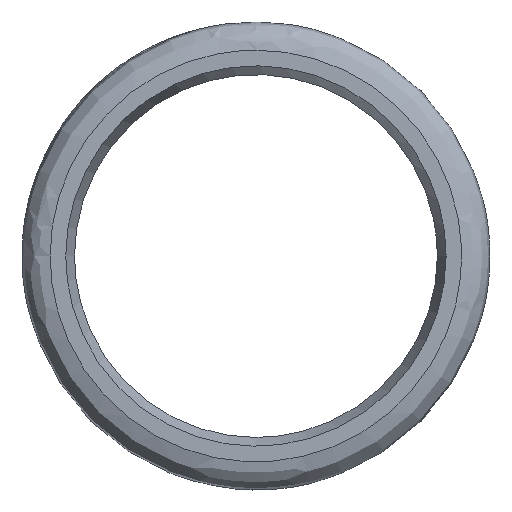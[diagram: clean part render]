
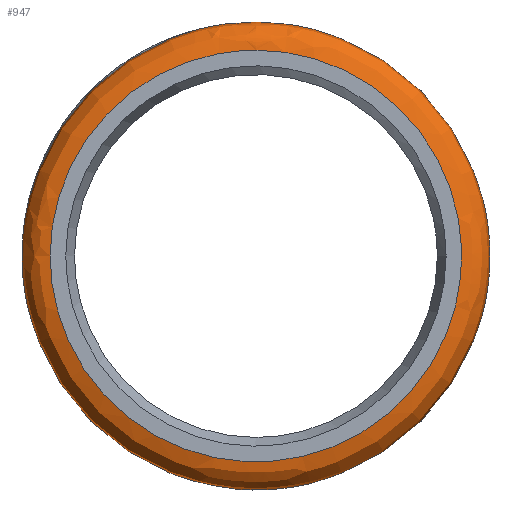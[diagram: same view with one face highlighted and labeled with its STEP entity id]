
A CAD part, left-side view. The second image highlights one B-rep face of the part: STEP entity #947.
In plain terms, the highlighted free-form (B-spline) face has degree [2, 2] with [5, 9] control points.
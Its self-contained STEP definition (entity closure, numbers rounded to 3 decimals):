
#901 = EDGE_CURVE('',#902,#904,#906,.T.);
#902 = VERTEX_POINT('',#903);
#903 = CARTESIAN_POINT('',(0.,48.1,0.));
#904 = VERTEX_POINT('',#905);
#905 = CARTESIAN_POINT('',(0.,0.,48.1));
#906 = ( BOUNDED_CURVE() B_SPLINE_CURVE(2,(#907,#908,#909),
.UNSPECIFIED.,.F.,.F.) B_SPLINE_CURVE_WITH_KNOTS((3,3),(0.,
1.571),.PIECEWISE_BEZIER_KNOTS.) CURVE() 
GEOMETRIC_REPRESENTATION_ITEM() RATIONAL_B_SPLINE_CURVE((1.,
0.707,1.)) REPRESENTATION_ITEM('') );
#907 = CARTESIAN_POINT('',(0.,48.1,0.));
#908 = CARTESIAN_POINT('',(0.,48.1,48.1));
#909 = CARTESIAN_POINT('',(0.,0.,48.1));
#911 = EDGE_CURVE('',#904,#902,#912,.T.);
#912 = ( BOUNDED_CURVE() B_SPLINE_CURVE(2,(#913,#914,#915,#916,#917,#918
,#919),.UNSPECIFIED.,.F.,.F.) B_SPLINE_CURVE_WITH_KNOTS((3,2,2,3),(
    1.571,3.142,4.712,6.283),
.UNSPECIFIED.) CURVE() GEOMETRIC_REPRESENTATION_ITEM() 
RATIONAL_B_SPLINE_CURVE((1.,0.707,1.,0.707,1.,
0.707,1.)) REPRESENTATION_ITEM('') );
#913 = CARTESIAN_POINT('',(0.,0.,48.1));
#914 = CARTESIAN_POINT('',(0.,-48.1,48.1));
#915 = CARTESIAN_POINT('',(0.,-48.1,0.));
#916 = CARTESIAN_POINT('',(0.,-48.1,-48.1));
#917 = CARTESIAN_POINT('',(0.,0.,-48.1));
#918 = CARTESIAN_POINT('',(0.,48.1,-48.1));
#919 = CARTESIAN_POINT('',(0.,48.1,0.));
#947 = ADVANCED_FACE('',(#948),#987,.T.);
#948 = FACE_BOUND('',#949,.T.);
#949 = EDGE_LOOP('',(#950,#960,#970,#976,#984,#985,#986));
#950 = ORIENTED_EDGE('',*,*,#951,.F.);
#951 = EDGE_CURVE('',#952,#954,#956,.T.);
#952 = VERTEX_POINT('',#953);
#953 = CARTESIAN_POINT('',(11.267,52.767,0.));
#954 = VERTEX_POINT('',#955);
#955 = CARTESIAN_POINT('',(11.267,0.,52.767));
#956 = ( BOUNDED_CURVE() B_SPLINE_CURVE(2,(#957,#958,#959),
.UNSPECIFIED.,.F.,.F.) B_SPLINE_CURVE_WITH_KNOTS((3,3),(0.,
1.571),.PIECEWISE_BEZIER_KNOTS.) CURVE() 
GEOMETRIC_REPRESENTATION_ITEM() RATIONAL_B_SPLINE_CURVE((1.,
0.707,1.)) REPRESENTATION_ITEM('') );
#957 = CARTESIAN_POINT('',(11.267,52.767,0.));
#958 = CARTESIAN_POINT('',(11.267,52.767,
    52.767));
#959 = CARTESIAN_POINT('',(11.267,0.,
    52.767));
#960 = ORIENTED_EDGE('',*,*,#961,.F.);
#961 = EDGE_CURVE('',#962,#952,#964,.T.);
#962 = VERTEX_POINT('',#963);
#963 = CARTESIAN_POINT('',(11.267,-52.767,0.));
#964 = ( BOUNDED_CURVE() B_SPLINE_CURVE(2,(#965,#966,#967,#968,#969),
.UNSPECIFIED.,.F.,.F.) B_SPLINE_CURVE_WITH_KNOTS((3,2,3),(3.142,
4.712,6.283),.PIECEWISE_BEZIER_KNOTS.) CURVE() 
GEOMETRIC_REPRESENTATION_ITEM() RATIONAL_B_SPLINE_CURVE((1.,
0.707,1.,0.707,1.)) REPRESENTATION_ITEM('') );
#965 = CARTESIAN_POINT('',(11.267,-52.767,
    0.));
#966 = CARTESIAN_POINT('',(11.267,-52.767,
    -52.767));
#967 = CARTESIAN_POINT('',(11.267,0.,
    -52.767));
#968 = CARTESIAN_POINT('',(11.267,52.767,
    -52.767));
#969 = CARTESIAN_POINT('',(11.267,52.767,
    0.));
#970 = ORIENTED_EDGE('',*,*,#971,.F.);
#971 = EDGE_CURVE('',#954,#962,#972,.T.);
#972 = ( BOUNDED_CURVE() B_SPLINE_CURVE(2,(#973,#974,#975),
.UNSPECIFIED.,.F.,.F.) B_SPLINE_CURVE_WITH_KNOTS((3,3),(1.571,
3.142),.PIECEWISE_BEZIER_KNOTS.) CURVE() 
GEOMETRIC_REPRESENTATION_ITEM() RATIONAL_B_SPLINE_CURVE((1.,
0.707,1.)) REPRESENTATION_ITEM('') );
#973 = CARTESIAN_POINT('',(11.267,0.,
    52.767));
#974 = CARTESIAN_POINT('',(11.267,-52.767,
    52.767));
#975 = CARTESIAN_POINT('',(11.267,-52.767,
    0.));
#976 = ORIENTED_EDGE('',*,*,#977,.T.);
#977 = EDGE_CURVE('',#954,#904,#978,.T.);
#978 = ( BOUNDED_CURVE() B_SPLINE_CURVE(2,(#979,#980,#981,#982,#983),
.UNSPECIFIED.,.F.,.F.) B_SPLINE_CURVE_WITH_KNOTS((3,2,3),(
-0.785,0.393,1.571),.UNSPECIFIED.) CURVE() 
GEOMETRIC_REPRESENTATION_ITEM() RATIONAL_B_SPLINE_CURVE((1.,
0.831,1.,0.831,1.)) REPRESENTATION_ITEM('') );
#979 = CARTESIAN_POINT('',(11.267,0.,52.767));
#980 = CARTESIAN_POINT('',(8.149,0.,55.885));
#981 = CARTESIAN_POINT('',(4.074,0.,54.198));
#982 = CARTESIAN_POINT('',(0.,0.,52.51));
#983 = CARTESIAN_POINT('',(0.,0.,48.1));
#984 = ORIENTED_EDGE('',*,*,#911,.T.);
#985 = ORIENTED_EDGE('',*,*,#901,.T.);
#986 = ORIENTED_EDGE('',*,*,#977,.F.);
#987 = ( BOUNDED_SURFACE() B_SPLINE_SURFACE(2,2,(
    (#988,#989,#990,#991,#992,#993,#994,#995,#996)
    ,(#997,#998,#999,#1000,#1001,#1002,#1003,#1004,#1005)
    ,(#1006,#1007,#1008,#1009,#1010,#1011,#1012,#1013,#1014)
    ,(#1015,#1016,#1017,#1018,#1019,#1020,#1021,#1022,#1023)
    ,(#1024,#1025,#1026,#1027,#1028,#1029,#1030,#1031,#1032
)),.UNSPECIFIED.,.F.,.T.,.F.) B_SPLINE_SURFACE_WITH_KNOTS((3,2,3),(1,2,2
    ,2,2,2,1),(-1.571,-0.393,0.785),(
    -4.712,-3.142,-1.571,0.,1.571,
    3.142,4.712),.UNSPECIFIED.) 
GEOMETRIC_REPRESENTATION_ITEM() RATIONAL_B_SPLINE_SURFACE((
    (1.,0.707,1.,0.707,1.,0.707,1.
      ,0.707,1.)
    ,(0.831,0.588,0.831,0.588
      ,0.831,0.588,0.831,0.588
      ,0.831)
    ,(1.,0.707,1.,0.707,1.,0.707,1.
      ,0.707,1.)
    ,(0.831,0.588,0.831,0.588
      ,0.831,0.588,0.831,0.588
      ,0.831)
    ,(1.,0.707,1.,0.707,1.,0.707,1.
,0.707,1.))) REPRESENTATION_ITEM('') SURFACE() );
#988 = CARTESIAN_POINT('',(11.267,0.,52.767));
#989 = CARTESIAN_POINT('',(11.267,-52.767,
    52.767));
#990 = CARTESIAN_POINT('',(11.267,-52.767,0.));
#991 = CARTESIAN_POINT('',(11.267,-52.767,
    -52.767));
#992 = CARTESIAN_POINT('',(11.267,0.,-52.767));
#993 = CARTESIAN_POINT('',(11.267,52.767,
    -52.767));
#994 = CARTESIAN_POINT('',(11.267,52.767,0.));
#995 = CARTESIAN_POINT('',(11.267,52.767,
    52.767));
#996 = CARTESIAN_POINT('',(11.267,0.,52.767));
#997 = CARTESIAN_POINT('',(8.149,0.,55.885));
#998 = CARTESIAN_POINT('',(8.149,-55.885,
    55.885));
#999 = CARTESIAN_POINT('',(8.149,-55.885,0.));
#1000 = CARTESIAN_POINT('',(8.149,-55.885,
    -55.885));
#1001 = CARTESIAN_POINT('',(8.149,0.,-55.885));
#1002 = CARTESIAN_POINT('',(8.149,55.885,
    -55.885));
#1003 = CARTESIAN_POINT('',(8.149,55.885,0.));
#1004 = CARTESIAN_POINT('',(8.149,55.885,
    55.885));
#1005 = CARTESIAN_POINT('',(8.149,0.,55.885));
#1006 = CARTESIAN_POINT('',(4.074,0.,54.198));
#1007 = CARTESIAN_POINT('',(4.074,-54.198,
    54.198));
#1008 = CARTESIAN_POINT('',(4.074,-54.198,0.));
#1009 = CARTESIAN_POINT('',(4.074,-54.198,
    -54.198));
#1010 = CARTESIAN_POINT('',(4.074,0.,-54.198));
#1011 = CARTESIAN_POINT('',(4.074,54.198,
    -54.198));
#1012 = CARTESIAN_POINT('',(4.074,54.198,0.));
#1013 = CARTESIAN_POINT('',(4.074,54.198,
    54.198));
#1014 = CARTESIAN_POINT('',(4.074,0.,54.198));
#1015 = CARTESIAN_POINT('',(0.,0.,52.51));
#1016 = CARTESIAN_POINT('',(0.,-52.51,
    52.51));
#1017 = CARTESIAN_POINT('',(0.,-52.51,0.));
#1018 = CARTESIAN_POINT('',(0.,-52.51,
    -52.51));
#1019 = CARTESIAN_POINT('',(0.,0.,-52.51));
#1020 = CARTESIAN_POINT('',(0.,52.51,
    -52.51));
#1021 = CARTESIAN_POINT('',(0.,52.51,0.));
#1022 = CARTESIAN_POINT('',(0.,52.51,
    52.51));
#1023 = CARTESIAN_POINT('',(0.,0.,52.51));
#1024 = CARTESIAN_POINT('',(0.,0.,48.1));
#1025 = CARTESIAN_POINT('',(0.,-48.1,48.1));
#1026 = CARTESIAN_POINT('',(0.,-48.1,0.));
#1027 = CARTESIAN_POINT('',(0.,-48.1,-48.1));
#1028 = CARTESIAN_POINT('',(0.,0.,-48.1));
#1029 = CARTESIAN_POINT('',(0.,48.1,-48.1));
#1030 = CARTESIAN_POINT('',(0.,48.1,0.));
#1031 = CARTESIAN_POINT('',(0.,48.1,48.1));
#1032 = CARTESIAN_POINT('',(0.,0.,48.1));
